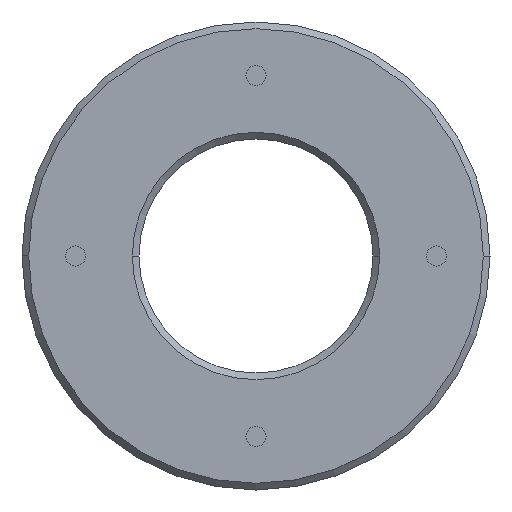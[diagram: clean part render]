
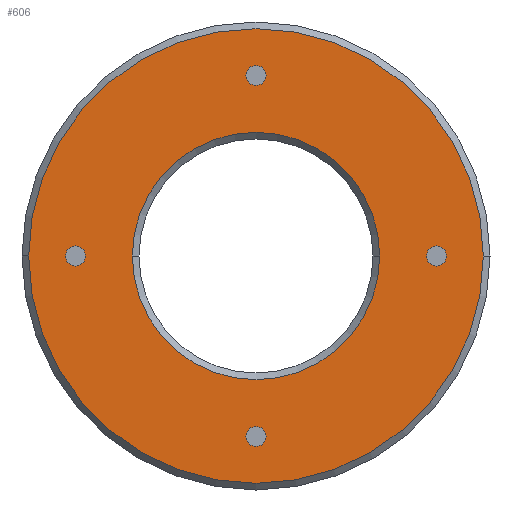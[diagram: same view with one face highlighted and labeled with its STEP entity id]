
A CAD part, front view. The second image highlights one B-rep face of the part: STEP entity #606.
In plain terms, the highlighted planar face has unit normal (0, -1, 0).
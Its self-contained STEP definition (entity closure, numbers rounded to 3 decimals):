
#6=CARTESIAN_POINT('',(27.,-12.5,0.));
#7=DIRECTION('',(0.,-1.,0.));
#8=DIRECTION('',(0.,0.,-1.));
#9=AXIS2_PLACEMENT_3D('',#6,#7,#8);
#11=CARTESIAN_POINT('',(27.,-12.5,0.));
#12=DIRECTION('',(0.,-1.,0.));
#13=DIRECTION('',(0.,0.,1.));
#14=AXIS2_PLACEMENT_3D('',#11,#12,#13);
#16=CARTESIAN_POINT('',(0.,-12.5,-27.));
#17=DIRECTION('',(0.,-1.,0.));
#18=DIRECTION('',(0.,0.,-1.));
#19=AXIS2_PLACEMENT_3D('',#16,#17,#18);
#21=CARTESIAN_POINT('',(0.,-12.5,-27.));
#22=DIRECTION('',(0.,-1.,0.));
#23=DIRECTION('',(0.,0.,1.));
#24=AXIS2_PLACEMENT_3D('',#21,#22,#23);
#26=CARTESIAN_POINT('',(-27.,-12.5,0.));
#27=DIRECTION('',(0.,-1.,0.));
#28=DIRECTION('',(0.,0.,-1.));
#29=AXIS2_PLACEMENT_3D('',#26,#27,#28);
#31=CARTESIAN_POINT('',(-27.,-12.5,0.));
#32=DIRECTION('',(0.,-1.,0.));
#33=DIRECTION('',(0.,0.,1.));
#34=AXIS2_PLACEMENT_3D('',#31,#32,#33);
#36=CARTESIAN_POINT('',(0.,-12.5,27.));
#37=DIRECTION('',(0.,-1.,0.));
#38=DIRECTION('',(0.,0.,-1.));
#39=AXIS2_PLACEMENT_3D('',#36,#37,#38);
#41=CARTESIAN_POINT('',(0.,-12.5,27.));
#42=DIRECTION('',(0.,-1.,0.));
#43=DIRECTION('',(0.,0.,1.));
#44=AXIS2_PLACEMENT_3D('',#41,#42,#43);
#46=CARTESIAN_POINT('',(0.,-12.5,
0.));
#47=DIRECTION('',(0.,1.,0.));
#48=DIRECTION('',(-1.,0.,0.));
#49=AXIS2_PLACEMENT_3D('',#46,#47,#48);
#51=CARTESIAN_POINT('',(0.,-12.5,0.));
#52=DIRECTION('',(0.,1.,0.));
#53=DIRECTION('',(1.,0.,0.));
#54=AXIS2_PLACEMENT_3D('',#51,#52,#53);
#56=CARTESIAN_POINT('',(0.,-12.5,
0.));
#57=DIRECTION('',(0.,1.,0.));
#58=DIRECTION('',(-1.,0.,0.));
#59=AXIS2_PLACEMENT_3D('',#56,#57,#58);
#61=CARTESIAN_POINT('',(0.,-12.5,
0.));
#62=DIRECTION('',(0.,1.,0.));
#63=DIRECTION('',(1.,0.,0.));
#64=AXIS2_PLACEMENT_3D('',#61,#62,#63);
#466=CARTESIAN_POINT('',(27.,-12.5,-1.5));
#467=CARTESIAN_POINT('',(27.,-12.5,1.5));
#468=VERTEX_POINT('',#466);
#469=VERTEX_POINT('',#467);
#470=CARTESIAN_POINT('',(0.,-12.5,-28.5));
#471=CARTESIAN_POINT('',(0.,-12.5,-25.5));
#472=VERTEX_POINT('',#470);
#473=VERTEX_POINT('',#471);
#474=CARTESIAN_POINT('',(-27.,-12.5,-1.5));
#475=CARTESIAN_POINT('',(-27.,-12.5,1.5));
#476=VERTEX_POINT('',#474);
#477=VERTEX_POINT('',#475);
#478=CARTESIAN_POINT('',(0.,-12.5,25.5));
#479=CARTESIAN_POINT('',(0.,-12.5,28.5));
#480=VERTEX_POINT('',#478);
#481=VERTEX_POINT('',#479);
#534=CARTESIAN_POINT('',(-18.5,-12.5,0.));
#535=CARTESIAN_POINT('',(18.5,-12.5,0.));
#536=VERTEX_POINT('',#534);
#537=VERTEX_POINT('',#535);
#542=CARTESIAN_POINT('',(-34.,-12.5,0.));
#543=CARTESIAN_POINT('',(34.,-12.5,
0.));
#544=VERTEX_POINT('',#542);
#545=VERTEX_POINT('',#543);
#566=CARTESIAN_POINT('',(0.,-12.5,0.));
#567=DIRECTION('',(0.,-1.,0.));
#568=DIRECTION('',(-1.,0.,0.));
#569=AXIS2_PLACEMENT_3D('',#566,#567,#568);
#570=PLANE('',#569);
#572=ORIENTED_EDGE('',*,*,#571,.T.);
#574=ORIENTED_EDGE('',*,*,#573,.T.);
#575=EDGE_LOOP('',(#572,#574));
#576=FACE_OUTER_BOUND('',#575,.F.);
#578=ORIENTED_EDGE('',*,*,#577,.T.);
#580=ORIENTED_EDGE('',*,*,#579,.T.);
#581=EDGE_LOOP('',(#578,#580));
#582=FACE_BOUND('',#581,.F.);
#583=ORIENTED_EDGE('',*,*,#555,.T.);
#585=ORIENTED_EDGE('',*,*,#584,.T.);
#586=EDGE_LOOP('',(#583,#585));
#587=FACE_BOUND('',#586,.F.);
#589=ORIENTED_EDGE('',*,*,#588,.T.);
#591=ORIENTED_EDGE('',*,*,#590,.T.);
#592=EDGE_LOOP('',(#589,#591));
#593=FACE_BOUND('',#592,.F.);
#595=ORIENTED_EDGE('',*,*,#594,.T.);
#597=ORIENTED_EDGE('',*,*,#596,.T.);
#598=EDGE_LOOP('',(#595,#597));
#599=FACE_BOUND('',#598,.F.);
#601=ORIENTED_EDGE('',*,*,#600,.F.);
#603=ORIENTED_EDGE('',*,*,#602,.F.);
#604=EDGE_LOOP('',(#601,#603));
#605=FACE_BOUND('',#604,.F.);
#10=CIRCLE('',#9,1.5);
#15=CIRCLE('',#14,1.5);
#20=CIRCLE('',#19,1.5);
#25=CIRCLE('',#24,1.5);
#30=CIRCLE('',#29,1.5);
#35=CIRCLE('',#34,1.5);
#40=CIRCLE('',#39,1.5);
#45=CIRCLE('',#44,1.5);
#50=CIRCLE('',#49,18.5);
#55=CIRCLE('',#54,18.5);
#60=CIRCLE('',#59,34.);
#65=CIRCLE('',#64,34.);
#555=EDGE_CURVE('',#472,#473,#20,.T.);
#571=EDGE_CURVE('',#544,#545,#60,.T.);
#573=EDGE_CURVE('',#545,#544,#65,.T.);
#577=EDGE_CURVE('',#468,#469,#10,.T.);
#579=EDGE_CURVE('',#469,#468,#15,.T.);
#584=EDGE_CURVE('',#473,#472,#25,.T.);
#588=EDGE_CURVE('',#476,#477,#30,.T.);
#590=EDGE_CURVE('',#477,#476,#35,.T.);
#594=EDGE_CURVE('',#480,#481,#40,.T.);
#596=EDGE_CURVE('',#481,#480,#45,.T.);
#600=EDGE_CURVE('',#536,#537,#50,.T.);
#602=EDGE_CURVE('',#537,#536,#55,.T.);
#606=ADVANCED_FACE('',(#576,#582,#587,#593,#599,#605),#570,.T.);
